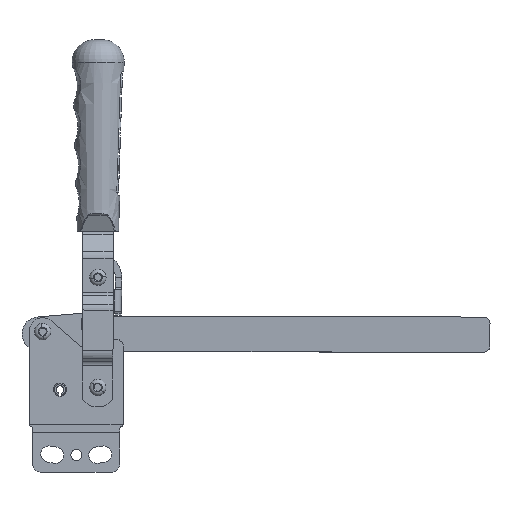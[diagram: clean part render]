
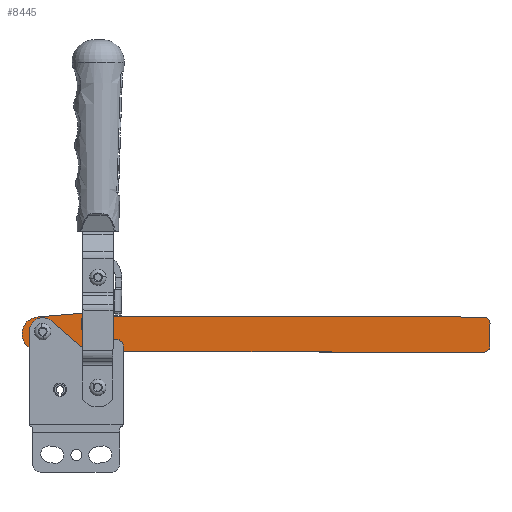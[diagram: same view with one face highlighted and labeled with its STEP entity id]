
A CAD part, top view. The second image highlights one B-rep face of the part: STEP entity #8445.
In plain terms, the highlighted planar face has unit normal (0, 0, 1) as drawn and (0, 0, -1) by its records, which use the part's own axes.
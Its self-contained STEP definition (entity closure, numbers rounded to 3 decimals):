
#161 = CARTESIAN_POINT ( 'NONE',  ( 4373.672, 1882.417, -6. ) ) ;
#611 = AXIS2_PLACEMENT_3D ( 'NONE', #25611, #11516, #7241 ) ;
#802 = DIRECTION ( 'NONE',  ( 0., 0., -1. ) ) ;
#857 = ORIENTED_EDGE ( 'NONE', *, *, #25595, .T. ) ;
#904 = CARTESIAN_POINT ( 'NONE',  ( 4344.357, 1888.899, -6. ) ) ;
#1420 = ORIENTED_EDGE ( 'NONE', *, *, #26337, .F. ) ;
#1457 = CIRCLE ( 'NONE', #611, 4. ) ;
#1730 = AXIS2_PLACEMENT_3D ( 'NONE', #2664, #802, #4914 ) ;
#1766 = DIRECTION ( 'NONE',  ( 0.996, -0.087, 0. ) ) ;
#1776 = CARTESIAN_POINT ( 'NONE',  ( 4550.006, 1894.999, -6. ) ) ;
#1969 = CARTESIAN_POINT ( 'NONE',  ( 4373.357, 1888.899, -6. ) ) ;
#2482 = AXIS2_PLACEMENT_3D ( 'NONE', #13151, #2999, #11143 ) ;
#2543 = VERTEX_POINT ( 'NONE', #5027 ) ;
#2623 = CARTESIAN_POINT ( 'NONE',  ( 4550.006, 1884.799, -6. ) ) ;
#2664 = CARTESIAN_POINT ( 'NONE',  ( 4378.458, 1878.799, -6. ) ) ;
#2807 = ORIENTED_EDGE ( 'NONE', *, *, #7582, .F. ) ;
#2903 = EDGE_CURVE ( 'NONE', #25857, #19434, #3076, .T. ) ;
#2999 = DIRECTION ( 'NONE',  ( 0., 0., 1. ) ) ;
#3076 = CIRCLE ( 'NONE', #9061, 3. ) ;
#3391 = VECTOR ( 'NONE', #1766, 1000. ) ;
#3647 = ORIENTED_EDGE ( 'NONE', *, *, #24384, .F. ) ;
#3840 = DIRECTION ( 'NONE',  ( 0., 0., 1. ) ) ;
#4009 = DIRECTION ( 'NONE',  ( 1., 0., 0. ) ) ;
#4113 = EDGE_CURVE ( 'NONE', #9873, #12953, #25760, .T. ) ;
#4115 = LINE ( 'NONE', #13896, #3391 ) ;
#4372 = FACE_BOUND ( 'NONE', #12562, .T. ) ;
#4382 = CIRCLE ( 'NONE', #18531, 3. ) ;
#4484 = FACE_BOUND ( 'NONE', #8487, .T. ) ;
#4494 = ORIENTED_EDGE ( 'NONE', *, *, #6388, .T. ) ;
#4624 = DIRECTION ( 'NONE',  ( -0.996, -0.087, 0. ) ) ;
#4914 = DIRECTION ( 'NONE',  ( 1., 0., 0. ) ) ;
#5027 = CARTESIAN_POINT ( 'NONE',  ( 4373.41, 1900.37, -6. ) ) ;
#5880 = CARTESIAN_POINT ( 'NONE',  ( 4369.357, 1888.899, -6. ) ) ;
#5980 = CARTESIAN_POINT ( 'NONE',  ( 4341.933, 1897.62, -6. ) ) ;
#6388 = EDGE_CURVE ( 'NONE', #9531, #8862, #1457, .T. ) ;
#6475 = CARTESIAN_POINT ( 'NONE',  ( 4365.357, 1888.899, -6. ) ) ;
#6485 = ORIENTED_EDGE ( 'NONE', *, *, #13167, .T. ) ;
#6566 = LINE ( 'NONE', #8438, #14092 ) ;
#6956 = VERTEX_POINT ( 'NONE', #22111 ) ;
#7033 = DIRECTION ( 'NONE',  ( 1., 0., 0. ) ) ;
#7241 = DIRECTION ( 'NONE',  ( 1., 0., 0. ) ) ;
#7582 = EDGE_CURVE ( 'NONE', #9357, #14771, #6566, .T. ) ;
#8028 = EDGE_CURVE ( 'NONE', #24544, #12597, #16852, .T. ) ;
#8049 = ORIENTED_EDGE ( 'NONE', *, *, #17686, .F. ) ;
#8113 = EDGE_CURVE ( 'NONE', #19434, #9357, #22257, .T. ) ;
#8157 = AXIS2_PLACEMENT_3D ( 'NONE', #8796, #13229, #17391 ) ;
#8180 = CARTESIAN_POINT ( 'NONE',  ( 4547.006, 1897.999, -6. ) ) ;
#8244 = LINE ( 'NONE', #9624, #11067 ) ;
#8438 = CARTESIAN_POINT ( 'NONE',  ( 4378.458, 1881.799, -6. ) ) ;
#8445 = ADVANCED_FACE ( 'NONE', ( #4372, #4484, #12534 ), #12267, .F. ) ;
#8487 = EDGE_LOOP ( 'NONE', ( #16157, #857 ) ) ;
#8796 = CARTESIAN_POINT ( 'NONE',  ( 4342.607, 1889.899, -6. ) ) ;
#8862 = VERTEX_POINT ( 'NONE', #6475 ) ;
#8916 = CARTESIAN_POINT ( 'NONE',  ( 4373.41, 1900.37, -6. ) ) ;
#8985 = DIRECTION ( 'NONE',  ( 1., 0., 0. ) ) ;
#9002 = ORIENTED_EDGE ( 'NONE', *, *, #11683, .F. ) ;
#9045 = DIRECTION ( 'NONE',  ( 0., 0., 1. ) ) ;
#9061 = AXIS2_PLACEMENT_3D ( 'NONE', #161, #24802, #14312 ) ;
#9114 = CARTESIAN_POINT ( 'NONE',  ( 4376.065, 1899.191, -6. ) ) ;
#9115 = DIRECTION ( 'NONE',  ( 0., 0., -1. ) ) ;
#9136 = ORIENTED_EDGE ( 'NONE', *, *, #4113, .F. ) ;
#9351 = EDGE_CURVE ( 'NONE', #12597, #24737, #4382, .T. ) ;
#9357 = VERTEX_POINT ( 'NONE', #18716 ) ;
#9531 = VERTEX_POINT ( 'NONE', #1969 ) ;
#9624 = CARTESIAN_POINT ( 'NONE',  ( 4500.006, 1897.999, -6. ) ) ;
#9792 = AXIS2_PLACEMENT_3D ( 'NONE', #14391, #3840, #9999 ) ;
#9873 = VERTEX_POINT ( 'NONE', #21525 ) ;
#9999 = DIRECTION ( 'NONE',  ( 1., 0., 0. ) ) ;
#10129 = DIRECTION ( 'NONE',  ( 1., 0., 0. ) ) ;
#10267 = CARTESIAN_POINT ( 'NONE',  ( 4378.458, 1878.799, -6. ) ) ;
#10511 = DIRECTION ( 'NONE',  ( 1., 0., 0. ) ) ;
#10546 = EDGE_CURVE ( 'NONE', #17453, #6956, #15302, .T. ) ;
#11022 = CIRCLE ( 'NONE', #13170, 4. ) ;
#11067 = VECTOR ( 'NONE', #26139, 1000. ) ;
#11143 = DIRECTION ( 'NONE',  ( 1., 0., 0. ) ) ;
#11340 = CIRCLE ( 'NONE', #13067, 3. ) ;
#11516 = DIRECTION ( 'NONE',  ( 0., 0., 1. ) ) ;
#11683 = EDGE_CURVE ( 'NONE', #24737, #9873, #8244, .T. ) ;
#11928 = CIRCLE ( 'NONE', #9792, 3. ) ;
#12267 = PLANE ( 'NONE',  #21052 ) ;
#12336 = DIRECTION ( 'NONE',  ( 1., 0., 0. ) ) ;
#12422 = CIRCLE ( 'NONE', #23158, 4. ) ;
#12457 = ORIENTED_EDGE ( 'NONE', *, *, #8113, .F. ) ;
#12534 = FACE_OUTER_BOUND ( 'NONE', #13370, .T. ) ;
#12537 = CARTESIAN_POINT ( 'NONE',  ( 4547.006, 1894.999, -6. ) ) ;
#12562 = EDGE_LOOP ( 'NONE', ( #4494, #6485 ) ) ;
#12597 = VERTEX_POINT ( 'NONE', #1776 ) ;
#12953 = VERTEX_POINT ( 'NONE', #9114 ) ;
#13067 = AXIS2_PLACEMENT_3D ( 'NONE', #20140, #26276, #13301 ) ;
#13151 = CARTESIAN_POINT ( 'NONE',  ( 4344.357, 1888.899, -6. ) ) ;
#13167 = EDGE_CURVE ( 'NONE', #8862, #9531, #11022, .T. ) ;
#13170 = AXIS2_PLACEMENT_3D ( 'NONE', #5880, #24539, #4009 ) ;
#13229 = DIRECTION ( 'NONE',  ( 0., 0., 1. ) ) ;
#13301 = DIRECTION ( 'NONE',  ( 1., 0., 0. ) ) ;
#13370 = EDGE_LOOP ( 'NONE', ( #12457, #19062, #20703, #1420, #23548, #3647, #9136, #9002, #15987, #18277, #8049, #2807 ) ) ;
#13896 = CARTESIAN_POINT ( 'NONE',  ( 4341.933, 1882.179, -6. ) ) ;
#14092 = VECTOR ( 'NONE', #12336, 1000. ) ;
#14302 = DIRECTION ( 'NONE',  ( 0., 1., 0. ) ) ;
#14312 = DIRECTION ( 'NONE',  ( 1., 0., 0. ) ) ;
#14391 = CARTESIAN_POINT ( 'NONE',  ( 4373.672, 1897.382, -6. ) ) ;
#14771 = VERTEX_POINT ( 'NONE', #17634 ) ;
#15086 = EDGE_CURVE ( 'NONE', #2543, #25490, #23168, .T. ) ;
#15302 = CIRCLE ( 'NONE', #2482, 4. ) ;
#15987 = ORIENTED_EDGE ( 'NONE', *, *, #9351, .F. ) ;
#16157 = ORIENTED_EDGE ( 'NONE', *, *, #10546, .T. ) ;
#16196 = VECTOR ( 'NONE', #4624, 1000. ) ;
#16295 = CIRCLE ( 'NONE', #8157, 7.75 ) ;
#16563 = CARTESIAN_POINT ( 'NONE',  ( 4341.933, 1882.179, -6. ) ) ;
#16738 = AXIS2_PLACEMENT_3D ( 'NONE', #21743, #9115, #8985 ) ;
#16852 = LINE ( 'NONE', #22911, #25223 ) ;
#17391 = DIRECTION ( 'NONE',  ( 1., 0., 0. ) ) ;
#17453 = VERTEX_POINT ( 'NONE', #24251 ) ;
#17592 = VERTEX_POINT ( 'NONE', #16563 ) ;
#17634 = CARTESIAN_POINT ( 'NONE',  ( 4547.006, 1881.799, -6. ) ) ;
#17686 = EDGE_CURVE ( 'NONE', #14771, #24544, #11340, .T. ) ;
#18277 = ORIENTED_EDGE ( 'NONE', *, *, #8028, .F. ) ;
#18468 = DIRECTION ( 'NONE',  ( 0., 0., 1. ) ) ;
#18531 = AXIS2_PLACEMENT_3D ( 'NONE', #12537, #20749, #10511 ) ;
#18716 = CARTESIAN_POINT ( 'NONE',  ( 4378.458, 1881.799, -6. ) ) ;
#19062 = ORIENTED_EDGE ( 'NONE', *, *, #2903, .F. ) ;
#19434 = VERTEX_POINT ( 'NONE', #24530 ) ;
#20140 = CARTESIAN_POINT ( 'NONE',  ( 4547.006, 1884.799, -6. ) ) ;
#20703 = ORIENTED_EDGE ( 'NONE', *, *, #24111, .F. ) ;
#20749 = DIRECTION ( 'NONE',  ( 0., 0., 1. ) ) ;
#21052 = AXIS2_PLACEMENT_3D ( 'NONE', #10267, #18468, #10129 ) ;
#21525 = CARTESIAN_POINT ( 'NONE',  ( 4378.458, 1897.999, -6. ) ) ;
#21743 = CARTESIAN_POINT ( 'NONE',  ( 4378.458, 1900.999, -6. ) ) ;
#22111 = CARTESIAN_POINT ( 'NONE',  ( 4340.357, 1888.899, -6. ) ) ;
#22257 = CIRCLE ( 'NONE', #1730, 3. ) ;
#22911 = CARTESIAN_POINT ( 'NONE',  ( 4550.006, 1894.999, -6. ) ) ;
#23158 = AXIS2_PLACEMENT_3D ( 'NONE', #904, #9045, #7033 ) ;
#23168 = LINE ( 'NONE', #8916, #16196 ) ;
#23548 = ORIENTED_EDGE ( 'NONE', *, *, #15086, .F. ) ;
#24111 = EDGE_CURVE ( 'NONE', #17592, #25857, #4115, .T. ) ;
#24251 = CARTESIAN_POINT ( 'NONE',  ( 4348.357, 1888.899, -6. ) ) ;
#24384 = EDGE_CURVE ( 'NONE', #12953, #2543, #11928, .T. ) ;
#24530 = CARTESIAN_POINT ( 'NONE',  ( 4376.065, 1880.608, -6. ) ) ;
#24539 = DIRECTION ( 'NONE',  ( 0., 0., 1. ) ) ;
#24544 = VERTEX_POINT ( 'NONE', #2623 ) ;
#24591 = CARTESIAN_POINT ( 'NONE',  ( 4373.41, 1879.429, -6. ) ) ;
#24737 = VERTEX_POINT ( 'NONE', #8180 ) ;
#24802 = DIRECTION ( 'NONE',  ( 0., 0., 1. ) ) ;
#25223 = VECTOR ( 'NONE', #14302, 1000. ) ;
#25490 = VERTEX_POINT ( 'NONE', #5980 ) ;
#25595 = EDGE_CURVE ( 'NONE', #6956, #17453, #12422, .T. ) ;
#25611 = CARTESIAN_POINT ( 'NONE',  ( 4369.357, 1888.899, -6. ) ) ;
#25760 = CIRCLE ( 'NONE', #16738, 3. ) ;
#25857 = VERTEX_POINT ( 'NONE', #24591 ) ;
#26139 = DIRECTION ( 'NONE',  ( -1., 0., 0. ) ) ;
#26276 = DIRECTION ( 'NONE',  ( 0., 0., 1. ) ) ;
#26337 = EDGE_CURVE ( 'NONE', #25490, #17592, #16295, .T. ) ;
